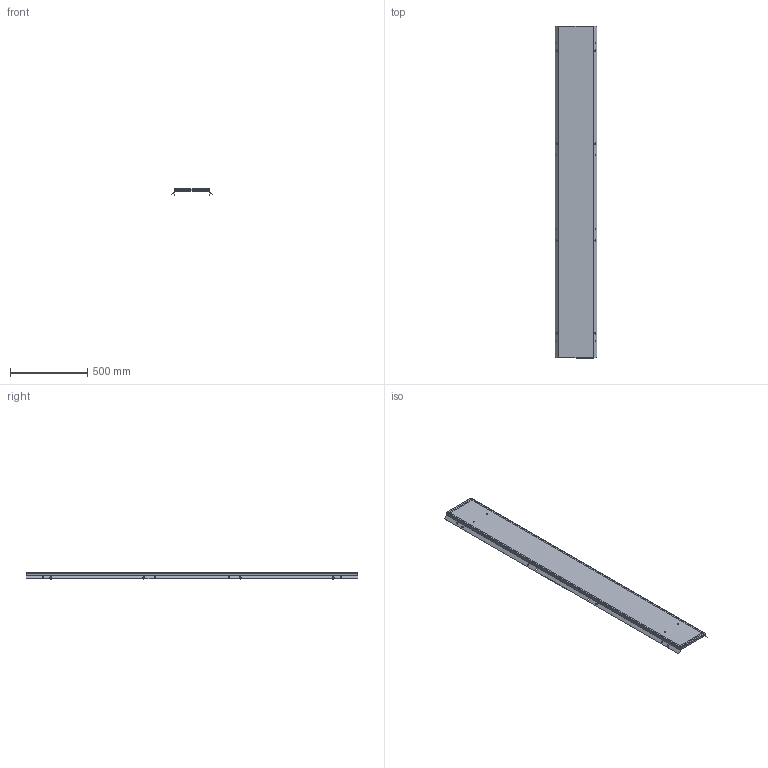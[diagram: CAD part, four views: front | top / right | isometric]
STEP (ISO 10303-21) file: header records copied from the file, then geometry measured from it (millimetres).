
FILE_DESCRIPTION (( 'STEP AP203' ), '1' );
FILE_NAME ('MA1.200.030622.10.00 AleSta-PR223 Ïàíåëü çàäíÿÿ, äëÿ øêàôîâ ALESTA, 2200 x 300.STEP', '2025-02-19T15:06:57', ( '' ), ( '' ), 'SwSTEP 2.0', 'SolidWorks 2021', '' );
FILE_SCHEMA (( 'CONFIG_CONTROL_DESIGN' ));
Length unit declared in the file: millimetre
Products named in the file (6): MA1.200.030622.10.00 AleSta-PR223  Ïàíåëü çàäíÿÿ, äëÿ øêàôîâ ALESTA, 2200 x 300; Óïëîòíèòåëü ïàíåëè íèæíåé_   ‚=2200; Âèíò ñàìîíàðåçàþùèé ñ ïîòàéíîé ãîëîâêîé Ì5x16 DIN 7500 M TORX, êëàññ ïðî÷íîñòè 8.8, îöèíêîâàííàÿ ñòàëü_Œ5å16; MA1.200.060620.11.00 Ïàíåëü çàäíÿÿ, äëÿ øêàôîâ AleSta, 2000x600_2200å300; MA1.200.060620.11.01 Ïîëîòíî çàäíåé ïàíåëè 2000õ600_2200å300; Øïèëüêà Ì6õ12_˜¯¨«ìª  Œ6å12
Assembly tree (15 placements, depth 3):
  MA1.200.030622.10.00 AleSta-PR223  Ïàíåëü çàäíÿÿ, äëÿ øêàôîâ ALESTA, 2200 x 300
    MA1.200.060620.11.00 Ïàíåëü çàäíÿÿ, äëÿ øêàôîâ AleSta, 2000x600_2200å300
      MA1.200.060620.11.01 Ïîëîòíî çàäíåé ïàíåëè 2000õ600_2200å300
      Óïëîòíèòåëü ïàíåëè íèæíåé_   ‚=2200
      Øïèëüêà Ì6õ12_˜¯¨«ìª  Œ6å12  x4
    Âèíò ñàìîíàðåçàþùèé ñ ïîòàéíîé ãîëîâêîé Ì5x16 DIN 7500 M TORX, êëàññ ïðî÷íîñòè 8.8, îöèíêîâàííàÿ ñòàëü_Œ5å16  x8
Bounding box: 265.31 x 2145 x 41.7 mm (x, y, z)
Volume: 987130.9 mm3; surface area: 1533645.5 mm2
Topology: 14 solids, 14 shells, 544 faces, 1352 edges, 864 vertices
Faces by surface type: cylinder 304, plane 184, cone 40, bspline 8, torus 8
Entity records: 7885 total; most frequent: CARTESIAN_POINT 1623, DIRECTION 1165, ORIENTED_EDGE 1074, EDGE_CURVE 537, AXIS2_PLACEMENT_3D 424, VERTEX_POINT 332, VECTOR 317, LINE 317
